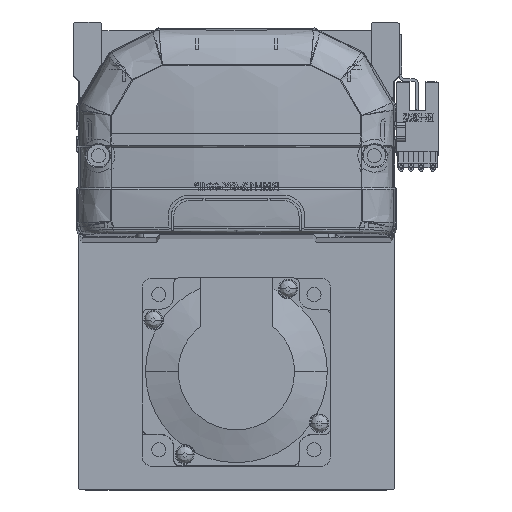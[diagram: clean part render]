
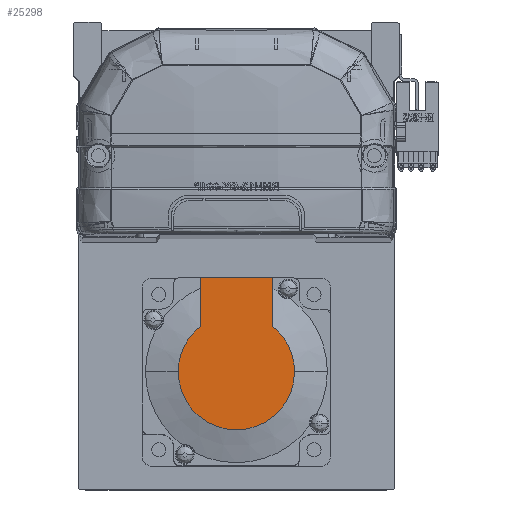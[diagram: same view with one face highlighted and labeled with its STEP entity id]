
A CAD part, top view. The second image highlights one B-rep face of the part: STEP entity #25298.
In plain terms, the highlighted planar face has unit normal (0, 0, 1) as drawn and (-1, 0, 0) by its records, which use the part's own axes.
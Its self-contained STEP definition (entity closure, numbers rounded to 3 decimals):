
#134 = DIRECTION ( 'NONE',  ( 0., 0., -1. ) ) ;
#208 = ORIENTED_EDGE ( 'NONE', *, *, #55581, .F. ) ;
#646 = CARTESIAN_POINT ( 'NONE',  ( -79., -9.269, 0. ) ) ;
#1586 = EDGE_CURVE ( 'NONE', #51782, #4960, #3760, .T. ) ;
#3355 = CARTESIAN_POINT ( 'NONE',  ( -79., 30., 27. ) ) ;
#3760 = LINE ( 'NONE', #36505, #40904 ) ;
#4960 = VERTEX_POINT ( 'NONE', #35812 ) ;
#5788 = EDGE_CURVE ( 'NONE', #23380, #53392, #11519, .T. ) ;
#6212 = ORIENTED_EDGE ( 'NONE', *, *, #45497, .T. ) ;
#6572 = AXIS2_PLACEMENT_3D ( 'NONE', #41269, #55551, #134 ) ;
#8032 = DIRECTION ( 'NONE',  ( 0., 0., 1. ) ) ;
#9744 = EDGE_CURVE ( 'NONE', #53392, #31283, #18835, .T. ) ;
#11519 = CIRCLE ( 'NONE', #28560, 18.538 ) ;
#11613 = CARTESIAN_POINT ( 'NONE',  ( -79., 14.579, 11.45 ) ) ;
#11883 = CIRCLE ( 'NONE', #6572, 18.538 ) ;
#14295 = CARTESIAN_POINT ( 'NONE',  ( -79., 30., 11.45 ) ) ;
#14372 = LINE ( 'NONE', #3355, #59484 ) ;
#16636 = CARTESIAN_POINT ( 'NONE',  ( -79., 0., -18.538 ) ) ;
#17154 = CARTESIAN_POINT ( 'NONE',  ( -79., 0., 0. ) ) ;
#17221 = ORIENTED_EDGE ( 'NONE', *, *, #1586, .T. ) ;
#17795 = DIRECTION ( 'NONE',  ( -1., 0., 0. ) ) ;
#18835 = CIRCLE ( 'NONE', #28728, 18.538 ) ;
#19403 = ORIENTED_EDGE ( 'NONE', *, *, #5788, .T. ) ;
#19846 = CARTESIAN_POINT ( 'NONE',  ( -79., 30., -11.45 ) ) ;
#22288 = DIRECTION ( 'NONE',  ( 0., -1., 0. ) ) ;
#23380 = VERTEX_POINT ( 'NONE', #16636 ) ;
#23934 = DIRECTION ( 'NONE',  ( -1., 0., 0. ) ) ;
#25298 = ADVANCED_FACE ( 'NONE', ( #37516 ), #55869, .T. ) ;
#25761 = ORIENTED_EDGE ( 'NONE', *, *, #9744, .T. ) ;
#28106 = DIRECTION ( 'NONE',  ( 0., -1., 0. ) ) ;
#28191 = DIRECTION ( 'NONE',  ( 0., 0., 1. ) ) ;
#28307 = CARTESIAN_POINT ( 'NONE',  ( -79., 0., 11.45 ) ) ;
#28560 = AXIS2_PLACEMENT_3D ( 'NONE', #42420, #17795, #56280 ) ;
#28728 = AXIS2_PLACEMENT_3D ( 'NONE', #17154, #49882, #54764 ) ;
#31283 = VERTEX_POINT ( 'NONE', #11613 ) ;
#35440 = EDGE_CURVE ( 'NONE', #35444, #31283, #50217, .T. ) ;
#35444 = VERTEX_POINT ( 'NONE', #14295 ) ;
#35812 = CARTESIAN_POINT ( 'NONE',  ( -79., 14.579, -11.45 ) ) ;
#36505 = CARTESIAN_POINT ( 'NONE',  ( -79., -9.269, -11.45 ) ) ;
#37516 = FACE_OUTER_BOUND ( 'NONE', #42084, .T. ) ;
#40904 = VECTOR ( 'NONE', #22288, 1000. ) ;
#41269 = CARTESIAN_POINT ( 'NONE',  ( -79., 0., 0. ) ) ;
#42084 = EDGE_LOOP ( 'NONE', ( #17221, #6212, #19403, #25761, #50923, #208 ) ) ;
#42420 = CARTESIAN_POINT ( 'NONE',  ( -79., 0., 0. ) ) ;
#45497 = EDGE_CURVE ( 'NONE', #4960, #23380, #11883, .T. ) ;
#46822 = AXIS2_PLACEMENT_3D ( 'NONE', #646, #23934, #28191 ) ;
#48748 = VECTOR ( 'NONE', #28106, 1000. ) ;
#49882 = DIRECTION ( 'NONE',  ( -1., 0., 0. ) ) ;
#50217 = LINE ( 'NONE', #28307, #48748 ) ;
#50923 = ORIENTED_EDGE ( 'NONE', *, *, #35440, .F. ) ;
#51782 = VERTEX_POINT ( 'NONE', #19846 ) ;
#53392 = VERTEX_POINT ( 'NONE', #57311 ) ;
#54764 = DIRECTION ( 'NONE',  ( 0., 0., -1. ) ) ;
#55551 = DIRECTION ( 'NONE',  ( -1., 0., 0. ) ) ;
#55581 = EDGE_CURVE ( 'NONE', #51782, #35444, #14372, .T. ) ;
#55869 = PLANE ( 'NONE',  #46822 ) ;
#56280 = DIRECTION ( 'NONE',  ( 0., 0., -1. ) ) ;
#57311 = CARTESIAN_POINT ( 'NONE',  ( -79., 0., 18.538 ) ) ;
#59484 = VECTOR ( 'NONE', #8032, 1000. ) ;
